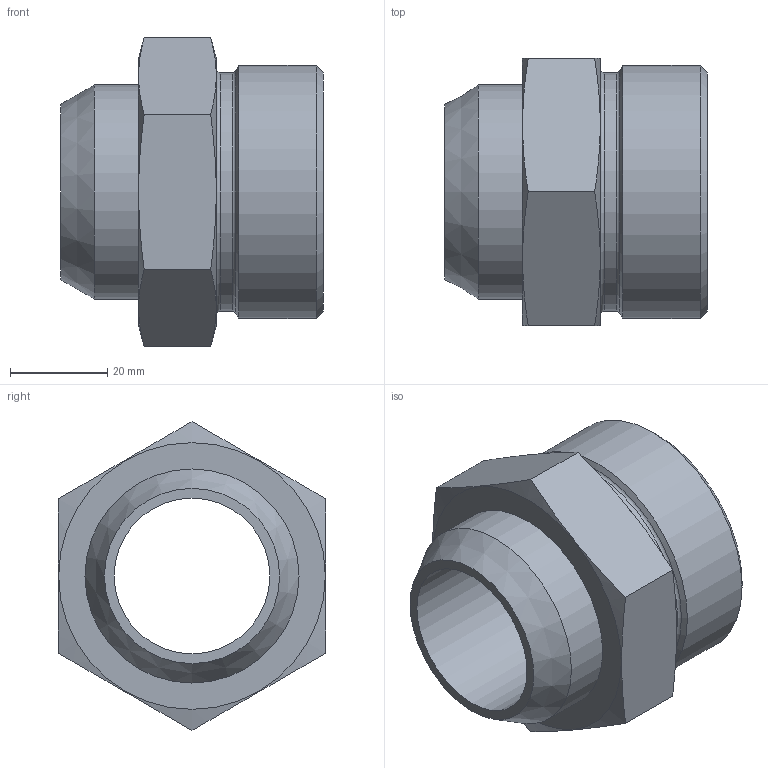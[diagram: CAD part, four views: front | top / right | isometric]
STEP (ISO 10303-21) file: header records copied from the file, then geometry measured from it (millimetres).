
FILE_DESCRIPTION( ( 'Unknown' ), '1' );
FILE_NAME( 'C:/Users/p.nanko/Desktop/3D SR/XASV38S.stp', 'Unknown', ( 'Peter Nanko' ), ( 'Armaturen Arndt' ), 'PSStep 14.0', 'Solid Edge ST4', ' ' );
FILE_SCHEMA( ( 'AUTOMOTIVE_DESIGN { 1 0 10303 214 1 1 1 1 }' ) );
Length unit declared in the file: millimetre
Products named in the file (1): 1
Bounding box: 54 x 55 x 63.51 mm (x, y, z)
Volume: 60308.2 mm3; surface area: 17635 mm2
Topology: 1 solids, 1 shells, 24 faces, 49 edges, 30 vertices
Faces by surface type: plane 11, cone 6, cylinder 5, torus 2
Full cylindrical faces by diameter (mm): 32 x1, 38.3 x1, 44 x1, 49 x1, 52 x1
Entity records: 840 total; most frequent: CARTESIAN_POINT 189, DIRECTION 90, ORIENTED_EDGE 70, AXIS2_PLACEMENT_3D 42, EDGE_LOOP 42, EDGE_CURVE 35, FACE_OUTER_BOUND 31, VERTEX_POINT 29
